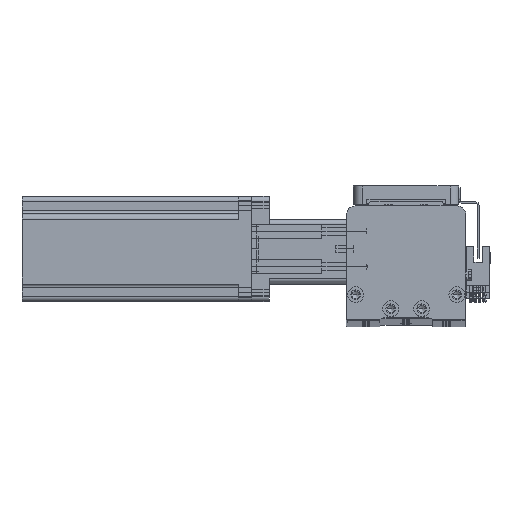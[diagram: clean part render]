
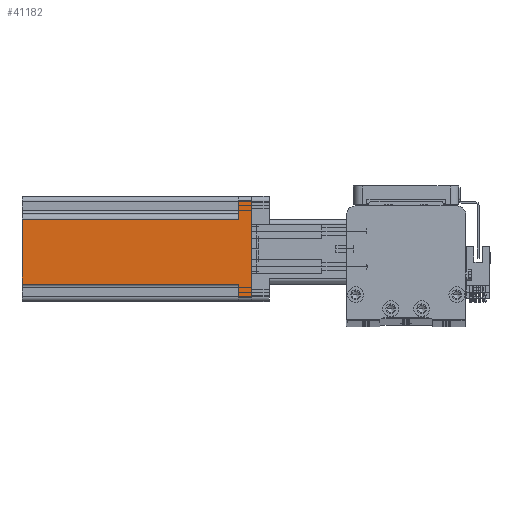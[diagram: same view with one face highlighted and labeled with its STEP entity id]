
A CAD part, top view. The second image highlights one B-rep face of the part: STEP entity #41182.
In plain terms, the highlighted planar face has unit normal (0, 0, 1) as drawn and (-1, 0, 0) by its records, which use the part's own axes.
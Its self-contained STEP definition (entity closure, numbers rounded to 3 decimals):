
#778 = ORIENTED_EDGE ( 'NONE', *, *, #6221, .T. ) ;
#1098 = DIRECTION ( 'NONE',  ( 0., 1., 0. ) ) ;
#1552 = LINE ( 'NONE', #26354, #2915 ) ;
#2915 = VECTOR ( 'NONE', #51898, 1000. ) ;
#3490 = CARTESIAN_POINT ( 'NONE',  ( -30., -17., 7.5 ) ) ;
#4318 = ORIENTED_EDGE ( 'NONE', *, *, #40771, .F. ) ;
#5130 = LINE ( 'NONE', #24762, #49242 ) ;
#6221 = EDGE_CURVE ( 'NONE', #7695, #37462, #15905, .T. ) ;
#7554 = LINE ( 'NONE', #35172, #40297 ) ;
#7695 = VERTEX_POINT ( 'NONE', #23656 ) ;
#9081 = CARTESIAN_POINT ( 'NONE',  ( -30., 20., 130.7 ) ) ;
#9570 = EDGE_CURVE ( 'NONE', #50096, #31455, #7554, .T. ) ;
#11622 = DIRECTION ( 'NONE',  ( 0., 0., 1. ) ) ;
#12964 = DIRECTION ( 'NONE',  ( 0., -1., 0. ) ) ;
#13023 = CARTESIAN_POINT ( 'NONE',  ( -30., -17., 130.7 ) ) ;
#14045 = EDGE_CURVE ( 'NONE', #31455, #51788, #1552, .T. ) ;
#15905 = LINE ( 'NONE', #17770, #24556 ) ;
#17271 = CARTESIAN_POINT ( 'NONE',  ( -30., -30., 130.7 ) ) ;
#17686 = LINE ( 'NONE', #21796, #27672 ) ;
#17770 = CARTESIAN_POINT ( 'NONE',  ( -30., -27., 130.7 ) ) ;
#18376 = CARTESIAN_POINT ( 'NONE',  ( -30., 20., 7.5 ) ) ;
#18504 = CARTESIAN_POINT ( 'NONE',  ( -30., -27., 7.5 ) ) ;
#18587 = PLANE ( 'NONE',  #54827 ) ;
#18747 = DIRECTION ( 'NONE',  ( 1., 0., 0. ) ) ;
#19832 = EDGE_CURVE ( 'NONE', #51788, #7695, #5130, .T. ) ;
#21686 = ORIENTED_EDGE ( 'NONE', *, *, #9570, .T. ) ;
#21796 = CARTESIAN_POINT ( 'NONE',  ( -30., -30., 7.5 ) ) ;
#21803 = ORIENTED_EDGE ( 'NONE', *, *, #42174, .F. ) ;
#23383 = VERTEX_POINT ( 'NONE', #9081 ) ;
#23656 = CARTESIAN_POINT ( 'NONE',  ( -30., -27., 0. ) ) ;
#24556 = VECTOR ( 'NONE', #51874, 1000. ) ;
#24755 = DIRECTION ( 'NONE',  ( 0., 0., 1. ) ) ;
#24762 = CARTESIAN_POINT ( 'NONE',  ( -30., -30., 0. ) ) ;
#26057 = DIRECTION ( 'NONE',  ( 0., -1., 0. ) ) ;
#26354 = CARTESIAN_POINT ( 'NONE',  ( -30., 27., 130.7 ) ) ;
#26806 = EDGE_LOOP ( 'NONE', ( #33473, #54611, #21803, #4318, #21686, #45909, #43844, #778 ) ) ;
#27672 = VECTOR ( 'NONE', #26057, 1000. ) ;
#30282 = VECTOR ( 'NONE', #12964, 1000. ) ;
#30813 = LINE ( 'NONE', #45776, #50827 ) ;
#31455 = VERTEX_POINT ( 'NONE', #41634 ) ;
#31629 = LINE ( 'NONE', #17271, #30282 ) ;
#31844 = FACE_OUTER_BOUND ( 'NONE', #26806, .T. ) ;
#33473 = ORIENTED_EDGE ( 'NONE', *, *, #36334, .F. ) ;
#35172 = CARTESIAN_POINT ( 'NONE',  ( -30., 30., 7.5 ) ) ;
#36334 = EDGE_CURVE ( 'NONE', #44806, #37462, #17686, .T. ) ;
#37165 = EDGE_CURVE ( 'NONE', #44806, #48697, #30813, .T. ) ;
#37462 = VERTEX_POINT ( 'NONE', #18504 ) ;
#40297 = VECTOR ( 'NONE', #1098, 1000. ) ;
#40771 = EDGE_CURVE ( 'NONE', #50096, #23383, #43209, .T. ) ;
#41182 = ADVANCED_FACE ( 'NONE', ( #31844 ), #18587, .F. ) ;
#41634 = CARTESIAN_POINT ( 'NONE',  ( -30., 27., 7.5 ) ) ;
#42174 = EDGE_CURVE ( 'NONE', #23383, #48697, #31629, .T. ) ;
#42961 = CARTESIAN_POINT ( 'NONE',  ( -30., 27., 0. ) ) ;
#43209 = LINE ( 'NONE', #50309, #54620 ) ;
#43844 = ORIENTED_EDGE ( 'NONE', *, *, #19832, .T. ) ;
#44273 = CARTESIAN_POINT ( 'NONE',  ( -30., -30., 130.7 ) ) ;
#44806 = VERTEX_POINT ( 'NONE', #3490 ) ;
#45776 = CARTESIAN_POINT ( 'NONE',  ( -30., -17., 130.7 ) ) ;
#45909 = ORIENTED_EDGE ( 'NONE', *, *, #14045, .T. ) ;
#48587 = DIRECTION ( 'NONE',  ( 0., 0., -1. ) ) ;
#48697 = VERTEX_POINT ( 'NONE', #13023 ) ;
#49242 = VECTOR ( 'NONE', #50325, 1000. ) ;
#50096 = VERTEX_POINT ( 'NONE', #18376 ) ;
#50309 = CARTESIAN_POINT ( 'NONE',  ( -30., 20., 7.5 ) ) ;
#50325 = DIRECTION ( 'NONE',  ( 0., -1., 0. ) ) ;
#50827 = VECTOR ( 'NONE', #11622, 1000. ) ;
#51788 = VERTEX_POINT ( 'NONE', #42961 ) ;
#51874 = DIRECTION ( 'NONE',  ( 0., 0., 1. ) ) ;
#51898 = DIRECTION ( 'NONE',  ( 0., 0., -1. ) ) ;
#54611 = ORIENTED_EDGE ( 'NONE', *, *, #37165, .T. ) ;
#54620 = VECTOR ( 'NONE', #24755, 1000. ) ;
#54827 = AXIS2_PLACEMENT_3D ( 'NONE', #44273, #18747, #48587 ) ;
